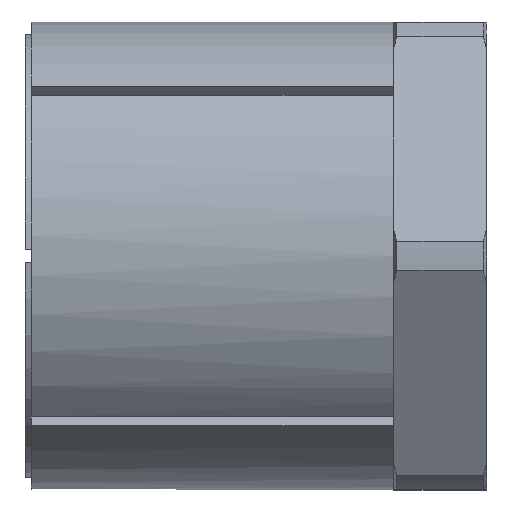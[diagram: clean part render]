
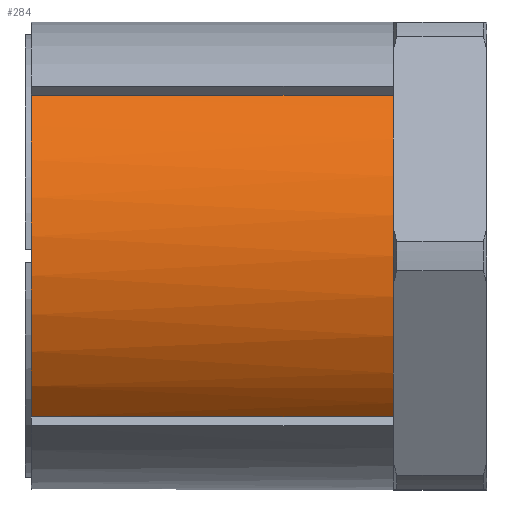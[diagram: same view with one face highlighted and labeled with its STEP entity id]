
A CAD part, front view. The second image highlights one B-rep face of the part: STEP entity #284.
In plain terms, the highlighted cylindrical face has radius 37.5 mm (diameter 75 mm), a partial arc.
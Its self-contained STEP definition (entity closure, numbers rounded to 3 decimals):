
#13 = AXIS2_PLACEMENT_3D ( 'NONE', #974, #964, #963 ) ;
#16 = AXIS2_PLACEMENT_3D ( 'NONE', #983, #973, #972 ) ;
#17 = AXIS2_PLACEMENT_3D ( 'NONE', #971, #969, #968 ) ;
#20 = AXIS2_PLACEMENT_3D ( 'NONE', #992, #990, #989 ) ;
#43 = EDGE_CURVE ( 'NONE', #785, #784, #2220, .T. ) ;
#50 = EDGE_CURVE ( 'NONE', #786, #787, #2230, .T. ) ;
#51 = EDGE_CURVE ( 'NONE', #787, #782, #2232, .T. ) ;
#52 = EDGE_CURVE ( 'NONE', #783, #784, #2224, .T. ) ;
#53 = EDGE_CURVE ( 'NONE', #782, #783, #2235, .T. ) ;
#229 = EDGE_CURVE ( 'NONE', #785, #786, #2455, .T. ) ;
#284 = ADVANCED_FACE ( 'NONE', ( #2493 ), #2524, .T. ) ;
#511 = ORIENTED_EDGE ( 'NONE', *, *, #53, .T. ) ;
#512 = ORIENTED_EDGE ( 'NONE', *, *, #52, .T. ) ;
#513 = ORIENTED_EDGE ( 'NONE', *, *, #43, .F. ) ;
#514 = ORIENTED_EDGE ( 'NONE', *, *, #229, .T. ) ;
#515 = ORIENTED_EDGE ( 'NONE', *, *, #50, .T. ) ;
#516 = ORIENTED_EDGE ( 'NONE', *, *, #51, .T. ) ;
#607 = EDGE_LOOP ( 'NONE', ( #511, #512, #513, #514, #515, #516 ) ) ;
#782 = VERTEX_POINT ( 'NONE', #1856 ) ;
#783 = VERTEX_POINT ( 'NONE', #1860 ) ;
#784 = VERTEX_POINT ( 'NONE', #1846 ) ;
#785 = VERTEX_POINT ( 'NONE', #1861 ) ;
#786 = VERTEX_POINT ( 'NONE', #1853 ) ;
#787 = VERTEX_POINT ( 'NONE', #1862 ) ;
#963 = DIRECTION ( 'NONE',  ( 0., 0., 1. ) ) ;
#964 = DIRECTION ( 'NONE',  ( -1., 0., 0. ) ) ;
#966 = DIRECTION ( 'NONE',  ( -1., 0., 0. ) ) ;
#967 = CARTESIAN_POINT ( 'NONE',  ( 0., -27.214, 25.8 ) ) ;
#968 = DIRECTION ( 'NONE',  ( 0., 0., 1. ) ) ;
#969 = DIRECTION ( 'NONE',  ( -1., 0., 0. ) ) ;
#971 = CARTESIAN_POINT ( 'NONE',  ( 58., 0., 0. ) ) ;
#972 = DIRECTION ( 'NONE',  ( 0., 0., 1. ) ) ;
#973 = DIRECTION ( 'NONE',  ( -1., 0., 0. ) ) ;
#974 = CARTESIAN_POINT ( 'NONE',  ( 58., 0., 0. ) ) ;
#983 = CARTESIAN_POINT ( 'NONE',  ( 58., 0., 0. ) ) ;
#989 = DIRECTION ( 'NONE',  ( 0., 0., 1. ) ) ;
#990 = DIRECTION ( 'NONE',  ( -1., 0., 0. ) ) ;
#992 = CARTESIAN_POINT ( 'NONE',  ( 0., 0., 0. ) ) ;
#1408 = CARTESIAN_POINT ( 'NONE',  ( 0., -27.214, -25.8 ) ) ;
#1418 = DIRECTION ( 'NONE',  ( 1., 0., 0. ) ) ;
#1570 = CARTESIAN_POINT ( 'NONE',  ( 0., 0., 0. ) ) ;
#1572 = DIRECTION ( 'NONE',  ( 0., 0., 1. ) ) ;
#1573 = DIRECTION ( 'NONE',  ( -1., 0., 0. ) ) ;
#1846 = CARTESIAN_POINT ( 'NONE',  ( 0., -27.214, 25.8 ) ) ;
#1853 = CARTESIAN_POINT ( 'NONE',  ( 58., -27.214, -25.8 ) ) ;
#1856 = CARTESIAN_POINT ( 'NONE',  ( 58., -32.476, 18.75 ) ) ;
#1860 = CARTESIAN_POINT ( 'NONE',  ( 58., -27.214, 25.8 ) ) ;
#1861 = CARTESIAN_POINT ( 'NONE',  ( 0., -27.214, -25.8 ) ) ;
#1862 = CARTESIAN_POINT ( 'NONE',  ( 58., -32.476, -18.75 ) ) ;
#2220 = CIRCLE ( 'NONE', #20, 37.5 ) ;
#2224 = LINE ( 'NONE', #967, #2228 ) ;
#2228 = VECTOR ( 'NONE', #966, 1000. ) ;
#2230 = CIRCLE ( 'NONE', #16, 37.5 ) ;
#2232 = CIRCLE ( 'NONE', #17, 37.5 ) ;
#2235 = CIRCLE ( 'NONE', #13, 37.5 ) ;
#2445 = VECTOR ( 'NONE', #1418, 1000. ) ;
#2455 = LINE ( 'NONE', #1408, #2445 ) ;
#2493 = FACE_OUTER_BOUND ( 'NONE', #607, .T. ) ;
#2524 = CYLINDRICAL_SURFACE ( 'NONE', #2719, 37.5 ) ;
#2719 = AXIS2_PLACEMENT_3D ( 'NONE', #1570, #1573, #1572 ) ;
